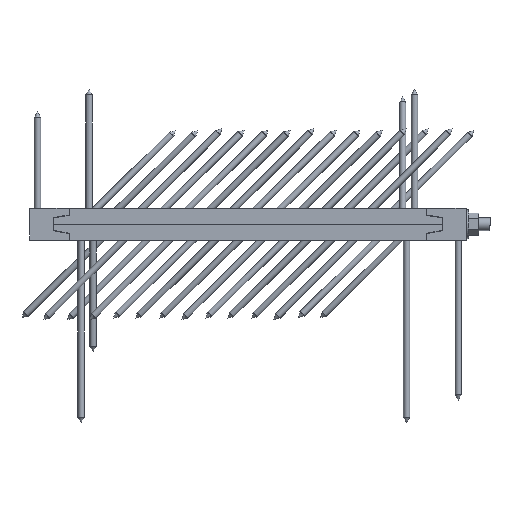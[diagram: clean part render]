
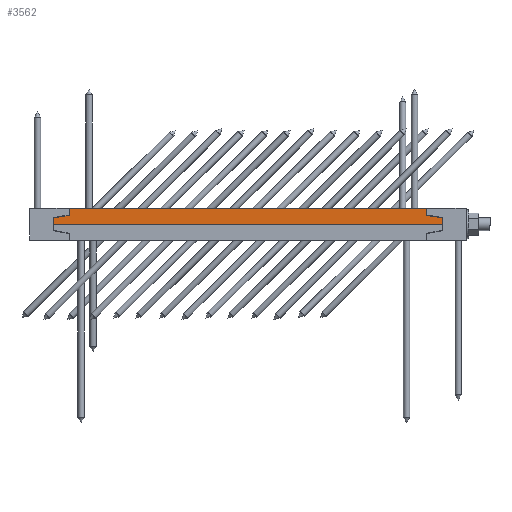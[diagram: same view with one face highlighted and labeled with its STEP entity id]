
A CAD part, left-side view. The second image highlights one B-rep face of the part: STEP entity #3562.
In plain terms, the highlighted planar face has unit normal (-1, 0, 0).
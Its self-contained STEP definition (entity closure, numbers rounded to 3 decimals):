
#502=LINE('',#5685,#750);
#534=LINE('',#5748,#782);
#569=LINE('',#5866,#817);
#571=LINE('',#5869,#819);
#573=LINE('',#5872,#821);
#574=LINE('',#5874,#822);
#575=LINE('',#5876,#823);
#576=LINE('',#5878,#824);
#750=VECTOR('',#4522,1000.);
#782=VECTOR('',#4562,1000.);
#817=VECTOR('',#4661,1000.);
#819=VECTOR('',#4665,1000.);
#821=VECTOR('',#4669,1000.);
#822=VECTOR('',#4672,1000.);
#823=VECTOR('',#4673,1000.);
#824=VECTOR('',#4674,1000.);
#1119=ORIENTED_EDGE('',*,*,#1919,.F.);
#1120=ORIENTED_EDGE('',*,*,#1920,.T.);
#1121=ORIENTED_EDGE('',*,*,#1921,.F.);
#1122=ORIENTED_EDGE('',*,*,#1820,.F.);
#1123=ORIENTED_EDGE('',*,*,#1918,.F.);
#1124=ORIENTED_EDGE('',*,*,#1914,.F.);
#1125=ORIENTED_EDGE('',*,*,#1916,.T.);
#1126=ORIENTED_EDGE('',*,*,#1854,.F.);
#1820=EDGE_CURVE('',#2230,#2231,#502,.T.);
#1854=EDGE_CURVE('',#2257,#2258,#534,.T.);
#1914=EDGE_CURVE('',#2308,#2306,#569,.T.);
#1916=EDGE_CURVE('',#2308,#2258,#571,.T.);
#1918=EDGE_CURVE('',#2306,#2230,#573,.T.);
#1919=EDGE_CURVE('',#2309,#2257,#574,.T.);
#1920=EDGE_CURVE('',#2309,#2310,#575,.T.);
#1921=EDGE_CURVE('',#2231,#2310,#576,.T.);
#2230=VERTEX_POINT('',#5684);
#2231=VERTEX_POINT('',#5686);
#2257=VERTEX_POINT('',#5747);
#2258=VERTEX_POINT('',#5749);
#2306=VERTEX_POINT('',#5861);
#2308=VERTEX_POINT('',#5865);
#2309=VERTEX_POINT('',#5875);
#2310=VERTEX_POINT('',#5877);
#2687=EDGE_LOOP('',(#1119,#1120,#1121,#1122,#1123,#1124,#1125,#1126));
#3087=FACE_BOUND('',#2687,.T.);
#3460=PLANE('',#4087);
#3562=ADVANCED_FACE('',(#3087),#3460,.T.);
#4087=AXIS2_PLACEMENT_3D('',#5873,#4670,#4671);
#4522=DIRECTION('',(0.,0.985,-0.174));
#4562=DIRECTION('',(0.,0.985,0.174));
#4661=DIRECTION('',(0.,-1.,0.));
#4665=DIRECTION('',(0.,0.,-1.));
#4669=DIRECTION('',(0.,0.,-1.));
#4670=DIRECTION('',(-1.,0.,0.));
#4671=DIRECTION('',(0.,0.,1.));
#4672=DIRECTION('',(0.,0.,1.));
#4673=DIRECTION('',(0.,-1.,0.));
#4674=DIRECTION('',(0.,0.,-1.));
#5684=CARTESIAN_POINT('',(0.,0.,12.25));
#5685=CARTESIAN_POINT('',(0.,0.,12.25));
#5686=CARTESIAN_POINT('',(0.,20.,8.723));
#5747=CARTESIAN_POINT('',(0.,470.,8.723));
#5748=CARTESIAN_POINT('',(0.,490.,12.25));
#5749=CARTESIAN_POINT('',(0.,490.,12.25));
#5861=CARTESIAN_POINT('',(0.,0.,20.));
#5865=CARTESIAN_POINT('',(0.,490.,20.));
#5866=CARTESIAN_POINT('',(0.,490.,20.));
#5869=CARTESIAN_POINT('',(0.,490.,20.));
#5872=CARTESIAN_POINT('',(0.,0.,20.));
#5873=CARTESIAN_POINT('',(0.,490.,20.));
#5874=CARTESIAN_POINT('',(0.,470.,8.723));
#5875=CARTESIAN_POINT('',(0.,470.,0.));
#5876=CARTESIAN_POINT('',(0.,490.,0.));
#5877=CARTESIAN_POINT('',(0.,20.,0.));
#5878=CARTESIAN_POINT('',(0.,20.,8.723));
